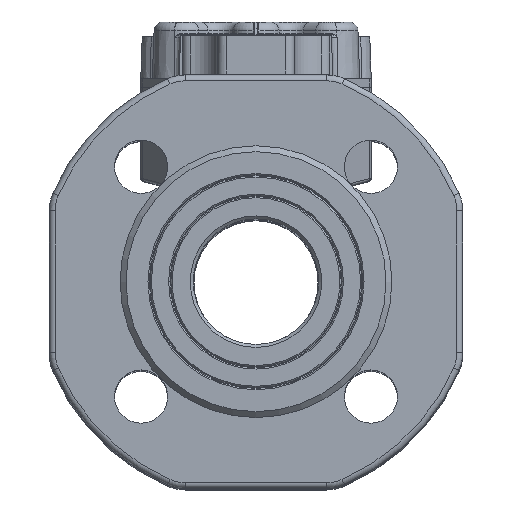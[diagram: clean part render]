
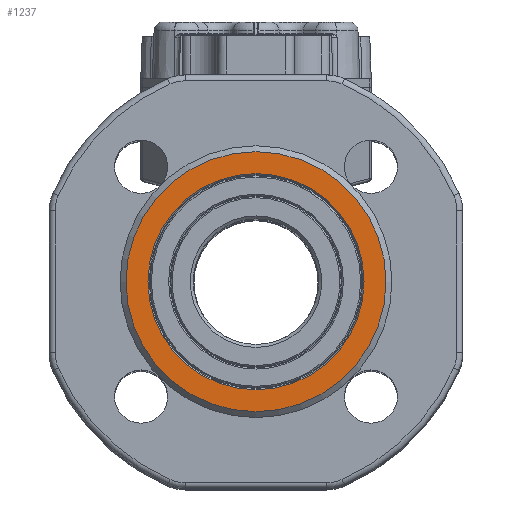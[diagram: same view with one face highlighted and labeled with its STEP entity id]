
A CAD part, top view. The second image highlights one B-rep face of the part: STEP entity #1237.
In plain terms, the highlighted planar face has unit normal (0, 0, 1).
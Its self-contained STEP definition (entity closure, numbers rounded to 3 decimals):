
#1237 = ADVANCED_FACE( '', ( #2609, #2610 ), #2611, .T. );
#2609 = FACE_BOUND( '', #7963, .T. );
#2610 = FACE_OUTER_BOUND( '', #7964, .T. );
#2611 = PLANE( '', #7965 );
#7963 = EDGE_LOOP( '', ( #11630 ) );
#7964 = EDGE_LOOP( '', ( #11631 ) );
#7965 = AXIS2_PLACEMENT_3D( '', #11632, #11633, #11634 );
#11630 = ORIENTED_EDGE( '', *, *, #13060, .T. );
#11631 = ORIENTED_EDGE( '', *, *, #13565, .F. );
#11632 = CARTESIAN_POINT( '', ( 0., -44., 300. ) );
#11633 = DIRECTION( '', ( 0., 0., 1. ) );
#11634 = DIRECTION( '', ( 1., 0., 0. ) );
#13060 = EDGE_CURVE( '', #14890, #14890, #14891, .T. );
#13565 = EDGE_CURVE( '', #15509, #15509, #15510, .T. );
#14890 = VERTEX_POINT( '', #18336 );
#14891 = CIRCLE( '', #18337, 36.583 );
#15509 = VERTEX_POINT( '', #19830 );
#15510 = CIRCLE( '', #19831, 44. );
#18336 = CARTESIAN_POINT( '', ( -36.583, 0., 300. ) );
#18337 = AXIS2_PLACEMENT_3D( '', #21126, #21127, #21128 );
#19830 = CARTESIAN_POINT( '', ( -44., 0., 300. ) );
#19831 = AXIS2_PLACEMENT_3D( '', #21729, #21730, #21731 );
#21126 = CARTESIAN_POINT( '', ( 0., 0., 300. ) );
#21127 = DIRECTION( '', ( 0., 0., -1. ) );
#21128 = DIRECTION( '', ( -1., 0., 0. ) );
#21729 = CARTESIAN_POINT( '', ( 0., 0., 300. ) );
#21730 = DIRECTION( '', ( 0., 0., -1. ) );
#21731 = DIRECTION( '', ( -1., 0., 0. ) );
